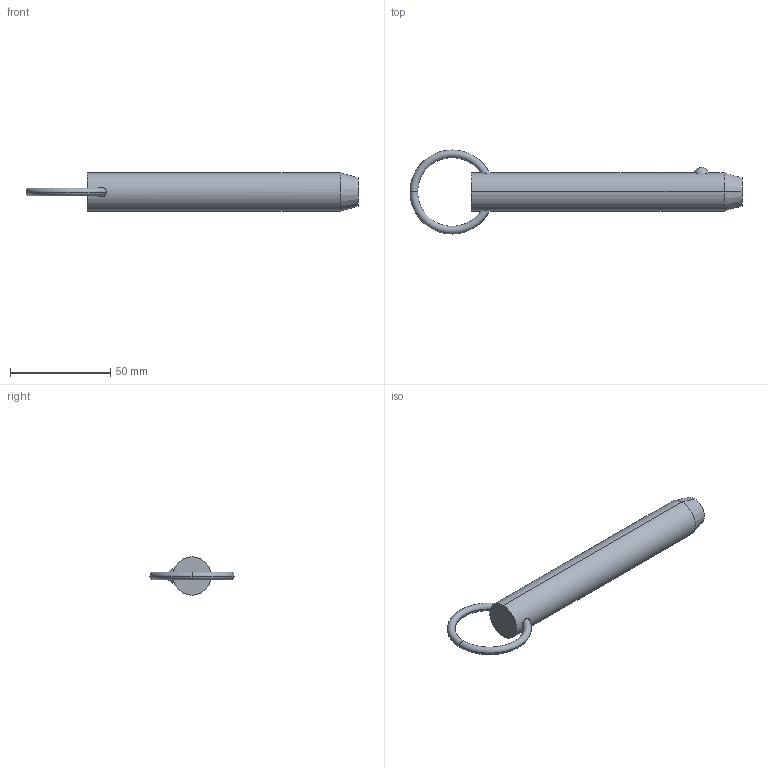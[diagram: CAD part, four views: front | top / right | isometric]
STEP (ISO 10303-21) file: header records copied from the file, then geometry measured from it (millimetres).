
FILE_DESCRIPTION (( 'STEP AP203' ), '1' );
FILE_NAME ('33010.W7540.step', '2024-11-01T10:44:09', ( '' ), ( '' ), 'SwSTEP 2.0', 'SolidWorks 2019', '' );
FILE_SCHEMA (( 'CONFIG_CONTROL_DESIGN' ));
Length unit declared in the file: millimetre
Products named in the file (3): Part1_33010.W7540; Part2_33010.W7540; 33010.W7540
Assembly tree (2 placements, depth 2):
  33010.W7540
    Part1_33010.W7540
    Part2_33010.W7540
Bounding box: 165.55 x 41.91 x 19.05 mm (x, y, z)
Volume: 38959 mm3; surface area: 10183.9 mm2
Topology: 2 solids, 2 shells, 16 faces, 31 edges, 18 vertices
Faces by surface type: torus 8, sphere 2, cone 2, cylinder 2, plane 2
Entity records: 893 total; most frequent: CARTESIAN_POINT 250, DIRECTION 88, ORIENTED_EDGE 62, AXIS2_PLACEMENT_3D 42, EDGE_CURVE 31, PERSON_AND_ORGANIZATION 26, CIRCLE 21, COORDINATED_UNIVERSAL_TIME_OFFSET 19
